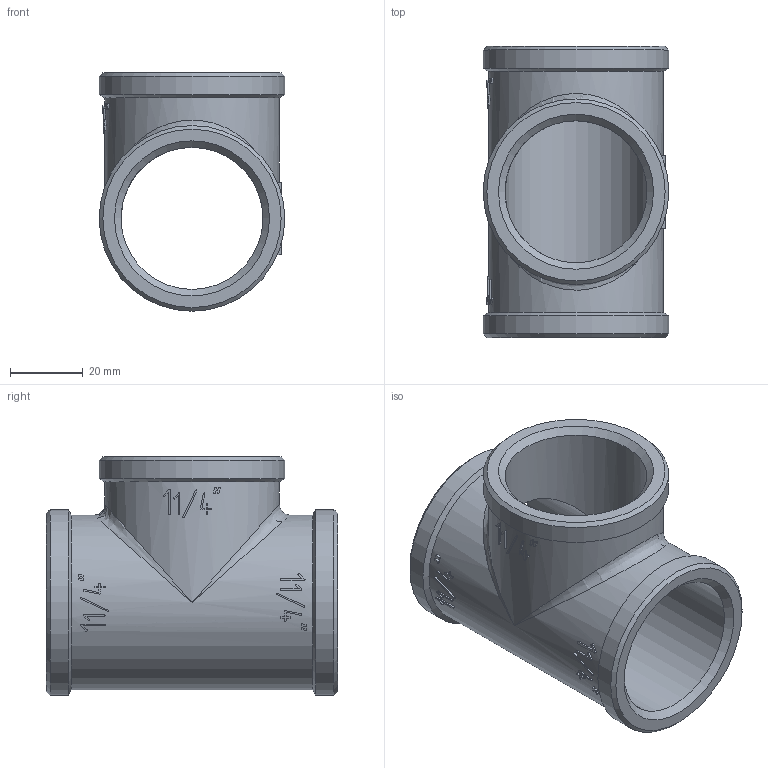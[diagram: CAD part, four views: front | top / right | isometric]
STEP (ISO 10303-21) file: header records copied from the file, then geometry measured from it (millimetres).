
FILE_DESCRIPTION(('STEP AP203'), '1');
FILE_NAME('ÂÐ.752243.005 - VTr.130.N.0007 - Ôèò. ðåçüá. òðîé', '2024-06-24T12:46:31', ('Boss'), (''), 'C3D Converter', 'C3D Toolkit', '');
FILE_SCHEMA(('CONFIG_CONTROL_DESIGN'));
Length unit declared in the file: millimetre
Products named in the file (1): ВР.752243.005
Bounding box: 51 x 80 x 65.5 mm (x, y, z)
Volume: 60781.8 mm3; surface area: 27832 mm2
Topology: 1 solids, 1 shells, 345 faces, 969 edges, 641 vertices
Faces by surface type: extrusion 189, plane 119, cylinder 26, cone 9, bspline 2
Full cylindrical faces by diameter (mm): 39 x2, 48 x2, 51 x3
Entity records: 14884 total; most frequent: CARTESIAN_POINT 7154, ORIENTED_EDGE 1894, DIRECTION 977, EDGE_CURVE 947, VERTEX_POINT 641, B_SPLINE_CURVE_WITH_KNOTS 576, VECTOR 565, EDGE_LOOP 386
